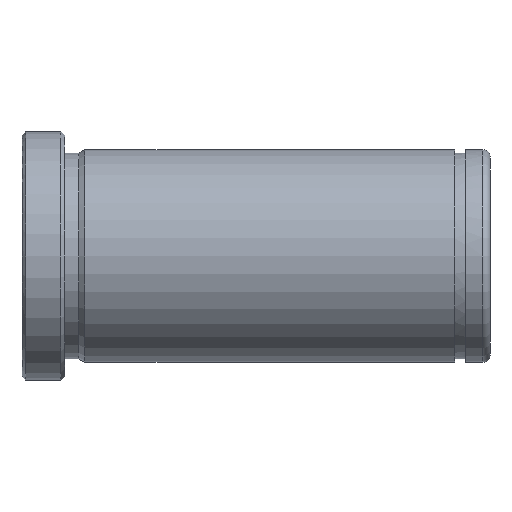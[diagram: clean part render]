
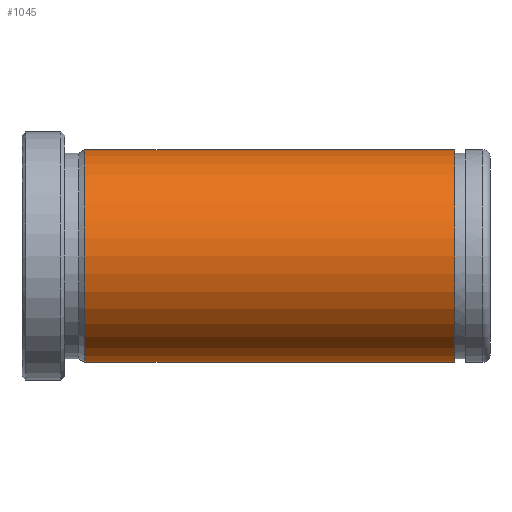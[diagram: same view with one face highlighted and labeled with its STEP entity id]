
A CAD part, front view. The second image highlights one B-rep face of the part: STEP entity #1045.
In plain terms, the highlighted cylindrical face has radius 15 mm (diameter 30 mm), a partial arc.
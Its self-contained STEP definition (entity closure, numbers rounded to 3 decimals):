
#851=CARTESIAN_POINT('Vertex',(8.866,0.,-15.)) ;
#858=CARTESIAN_POINT('Vertex',(8.866,0.,15.)) ;
#887=CARTESIAN_POINT('Axis2P3D Location',(8.866,0.,0.)) ;
#891=CARTESIAN_POINT('Vertex',(8.866,-15.,0.)) ;
#894=CARTESIAN_POINT('Axis2P3D Location',(8.866,0.,0.)) ;
#985=CARTESIAN_POINT('Line Origine',(132.,0.,15.)) ;
#989=CARTESIAN_POINT('Vertex',(61.,0.,15.)) ;
#1003=CARTESIAN_POINT('Vertex',(61.,0.,-15.)) ;
#1006=CARTESIAN_POINT('Line Origine',(132.,0.,-15.)) ;
#1020=CARTESIAN_POINT('Axis2P3D Location',(132.,0.,0.)) ;
#1025=CARTESIAN_POINT('Axis2P3D Location',(61.,0.,0.)) ;
#1029=CARTESIAN_POINT('Vertex',(61.,-15.,0.)) ;
#1032=CARTESIAN_POINT('Axis2P3D Location',(61.,0.,0.)) ;
#888=DIRECTION('Axis2P3D Direction',(1.,0.,-0.)) ;
#895=DIRECTION('Axis2P3D Direction',(1.,0.,-0.)) ;
#986=DIRECTION('Vector Direction',(-1.,0.,0.)) ;
#1007=DIRECTION('Vector Direction',(-1.,0.,0.)) ;
#1021=DIRECTION('Axis2P3D Direction',(-1.,-0.,-0.)) ;
#1022=DIRECTION('Axis2P3D XDirection',(0.,0.,-1.)) ;
#1026=DIRECTION('Axis2P3D Direction',(-1.,-0.,-0.)) ;
#1033=DIRECTION('Axis2P3D Direction',(-1.,-0.,-0.)) ;
#889=AXIS2_PLACEMENT_3D('Circle Axis2P3D',#887,#888,$) ;
#896=AXIS2_PLACEMENT_3D('Circle Axis2P3D',#894,#895,$) ;
#1023=AXIS2_PLACEMENT_3D('Cylinder Axis2P3D',#1020,#1021,#1022) ;
#1027=AXIS2_PLACEMENT_3D('Circle Axis2P3D',#1025,#1026,$) ;
#1034=AXIS2_PLACEMENT_3D('Circle Axis2P3D',#1032,#1033,$) ;
#1038=ORIENTED_EDGE('',*,*,#1010,.T.) ;
#1039=ORIENTED_EDGE('',*,*,#1031,.F.) ;
#1040=ORIENTED_EDGE('',*,*,#1036,.F.) ;
#1041=ORIENTED_EDGE('',*,*,#991,.T.) ;
#1042=ORIENTED_EDGE('',*,*,#898,.T.) ;
#1043=ORIENTED_EDGE('',*,*,#893,.T.) ;
#987=VECTOR('Line Direction',#986,1.) ;
#1008=VECTOR('Line Direction',#1007,1.) ;
#1045=ADVANCED_FACE('553-22X66',(#1044),#1024,.T.) ;
#890=CIRCLE('generated circle',#889,15.) ;
#897=CIRCLE('generated circle',#896,15.) ;
#1028=CIRCLE('generated circle',#1027,15.) ;
#1035=CIRCLE('generated circle',#1034,15.) ;
#1024=CYLINDRICAL_SURFACE('generated cylinder',#1023,15.) ;
#893=EDGE_CURVE('',#892,#852,#890,.T.) ;
#898=EDGE_CURVE('',#859,#892,#897,.T.) ;
#991=EDGE_CURVE('',#990,#859,#988,.T.) ;
#1010=EDGE_CURVE('',#852,#1004,#1009,.F.) ;
#1031=EDGE_CURVE('',#1030,#1004,#1028,.F.) ;
#1036=EDGE_CURVE('',#990,#1030,#1035,.F.) ;
#1037=EDGE_LOOP('',(#1038,#1039,#1040,#1041,#1042,#1043)) ;
#1044=FACE_OUTER_BOUND('',#1037,.T.) ;
#988=LINE('Line',#985,#987) ;
#1009=LINE('Line',#1006,#1008) ;
#852=VERTEX_POINT('',#851) ;
#859=VERTEX_POINT('',#858) ;
#892=VERTEX_POINT('',#891) ;
#990=VERTEX_POINT('',#989) ;
#1004=VERTEX_POINT('',#1003) ;
#1030=VERTEX_POINT('',#1029) ;
